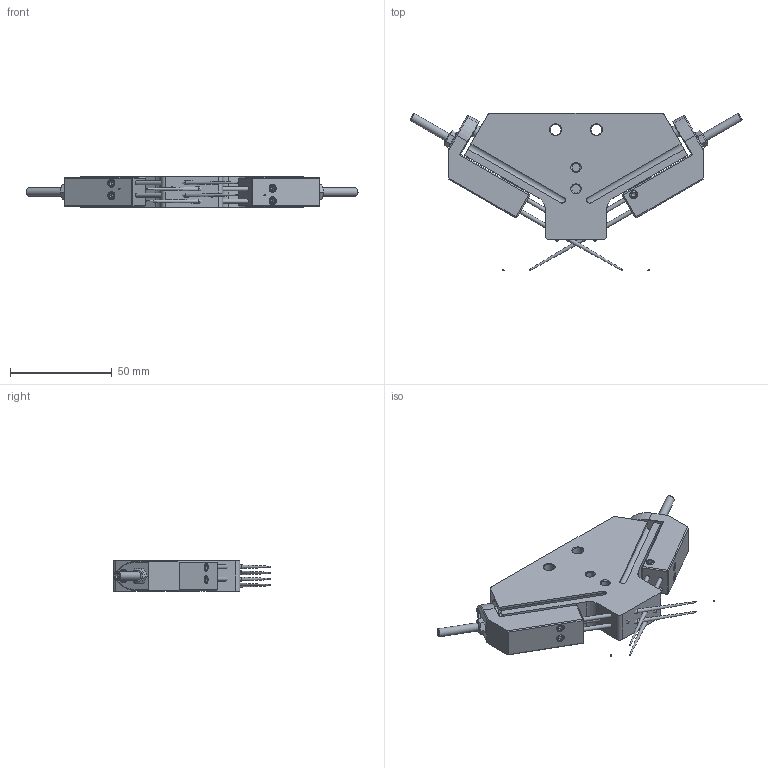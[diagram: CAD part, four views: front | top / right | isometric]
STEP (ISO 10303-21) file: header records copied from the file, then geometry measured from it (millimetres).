
FILE_DESCRIPTION(/* description */ ('NHL-15'),/* implementation_level */ '2;1');
FILE_NAME(/* name */ 'NHL-15.stp',/* time_stamp */ '2026-09-05T12:37:10+02:00',/* author */ ('Jensen'),/* organization */ (''),/* preprocessor_version */ 'ST-DEVELOPER v20.1',/* originating_system */ 'Autodesk Inventor 2026',/* authorisation */ '');
FILE_SCHEMA (('AUTOMOTIVE_DESIGN { 1 0 10303 214 3 1 1 }'));
Length unit declared in the file: millimetre
Products named in the file (4): NHL-15; NHL-15-001; NHL-15_piston_rod; NHL-15_needle_holder
Assembly tree (5 placements, depth 2):
  NHL-15
    NHL-15-001
    NHL-15_piston_rod  x2
    NHL-15_needle_holder  x2
Bounding box: 162.82 x 77.07 x 15 mm (x, y, z)
Volume: 77781.1 mm3; surface area: 28450 mm2
Topology: 5 solids, 5 shells, 304 faces, 720 edges, 457 vertices
Faces by surface type: plane 174, cylinder 60, cone 60, bspline 6, torus 4
Full cylindrical faces by diameter (mm): 2 x6, 2.459 x2, 3 x2, 3.242 x2, 3.3 x2, 4 x2, 4.134 x3, 4.2 x1, 5.3 x2, 5.5 x2, 5.8 x2, 6 x4, 9.8 x2, 10 x2, 13 x4, 13.6 x2
Entity records: 5752 total; most frequent: CARTESIAN_POINT 1187, DIRECTION 897, ORIENTED_EDGE 852, EDGE_CURVE 426, AXIS2_PLACEMENT_3D 330, VERTEX_POINT 276, LINE 237, VECTOR 237
